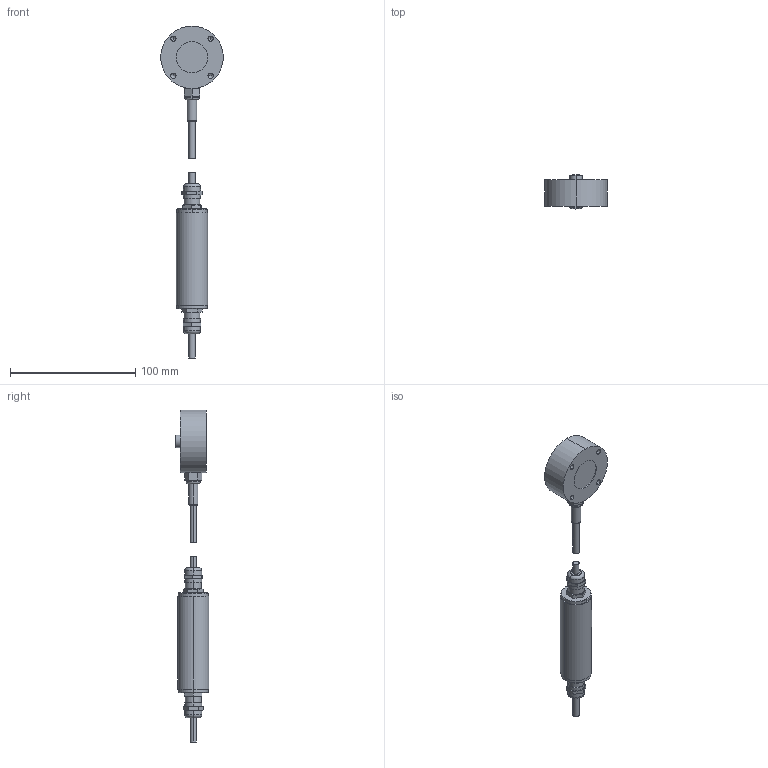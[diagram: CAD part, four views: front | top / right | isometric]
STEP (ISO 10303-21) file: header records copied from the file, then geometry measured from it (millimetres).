
FILE_DESCRIPTION(('STEP AP203'),'1');
FILE_NAME('C:/TPO v2/SharedFS/Outgoing/burster_8532-6010_dt4ujig1iyy1j0ei5pmbe8xdg.stp','2013-08-26T19:58:18',('TraceParts'),('TraceParts S.A.'),'XStep 1.0',' ',' ');
FILE_SCHEMA(('CONFIG_CONTROL_DESIGN'));
Length unit declared in the file: millimetre
Products named in the file (3): 1; 2; 3
Bounding box: 50 x 26.97 x 265.3 mm (x, y, z)
Volume: 88325.5 mm3; surface area: 18842.5 mm2
Topology: 3 solids, 3 shells, 171 faces, 379 edges, 230 vertices
Faces by surface type: cone 62, plane 55, cylinder 44, torus 8, sphere 2
Entity records: 4868 total; most frequent: CARTESIAN_POINT 1009, DIRECTION 810, ORIENTED_EDGE 742, EDGE_CURVE 371, AXIS2_PLACEMENT_3D 343, VERTEX_POINT 230, EDGE_LOOP 195, ADVANCED_FACE 171
